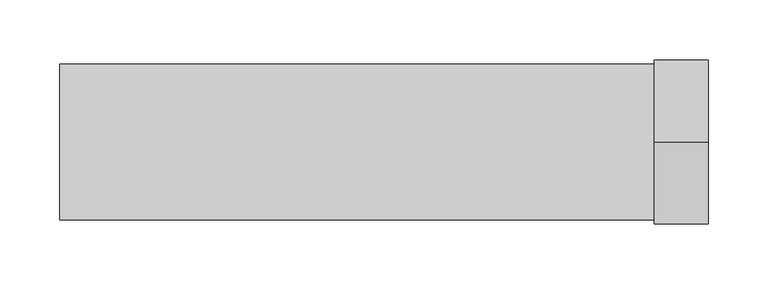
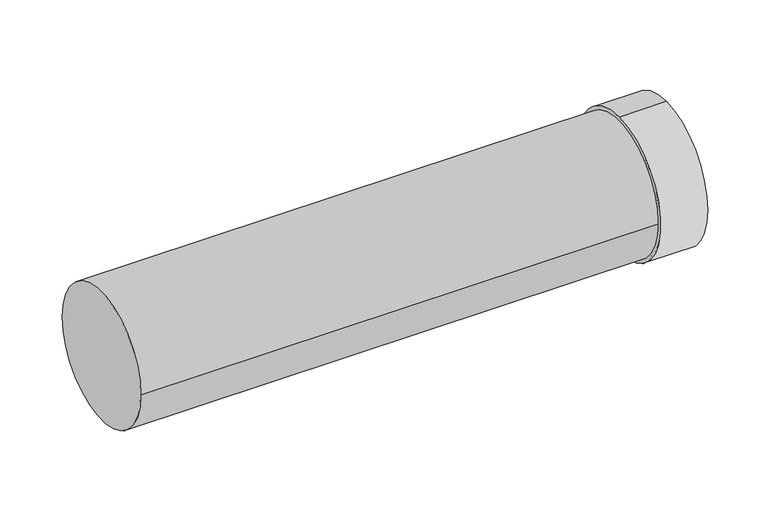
"""IFC4 building model written with IfcOpenShell, lengths in millimetres: duct fitting geometry, NLRS_57_DUF_UN_Twinline Extension_M&G : ø130-150-200."""

from ifc_helpers import new_model, si_unit, point, frame, origin, origin_2d, place, context, project, spatial, polyline, circle_curve, trimmed, segment, composite_curve, outline, extrude, source, transform, mapped, element, save
from ifc_brep_helpers import plane_surface, cylinder_surface, revolved_surface, advanced_brep


def duct_fitting_f8f29cd0(model_context):
    return source(origin(), model_context, "Body", "SolidModel", [
        advanced_brep(
        [(540.0, 0.0, -68.5), (540.0, 0.0, 68.5), (540.0, 0.0, 65.5), (540.0, 0.0, -65.5), (495.0, 0.0, -68.5), (495.0, 0.0, 68.5), (500.0, 0.0, -65.5), (500.0, 0.0, 65.5)],
        [
            (0, 1, circle_curve(frame((540.0, 0.0, 0.0), z_axis=(1.0, 0.0, 0.0), x_axis=(0.0, 0.0, 1.0)), 68.5)),
            (1, 0, circle_curve(frame((540.0, 0.0, 0.0), z_axis=(1.0, 0.0, 0.0), x_axis=(0.0, 0.0, 1.0)), 68.5)),
            (2, 3, circle_curve(frame((540.0, 0.0, 0.0), z_axis=(-1.0, 0.0, 0.0), x_axis=(0.0, 0.0, 1.0)), 65.5)),
            (3, 2, circle_curve(frame((540.0, 0.0, 0.0), z_axis=(-1.0, 0.0, 0.0), x_axis=(0.0, 0.0, 1.0)), 65.5)),
            (4, 5, circle_curve(frame((495.0, 0.0, 0.0), z_axis=(-1.0, 0.0, 0.0), x_axis=(0.0, 0.0, 1.0)), 68.5)),
            (5, 4, circle_curve(frame((495.0, 0.0, 0.0), z_axis=(-1.0, 0.0, 0.0), x_axis=(0.0, 0.0, 1.0)), 68.5)),
            (0, 4),
            (5, 1),
            (6, 7, circle_curve(frame((500.0, 0.0, 0.0), z_axis=(1.0, 0.0, 0.0), x_axis=(0.0, 0.0, 1.0)), 65.5)),
            (7, 6, circle_curve(frame((500.0, 0.0, 0.0), z_axis=(1.0, 0.0, 0.0), x_axis=(0.0, 0.0, 1.0)), 65.5)),
            (6, 3),
            (2, 7),
        ],
        [
            plane_surface(frame((540.0, 0.0, 68.5), z_axis=(1.0, 0.0, 0.0), x_axis=(0.0, -1.0, 0.0))),
            plane_surface(frame((495.0, 0.0, 68.5), z_axis=(-1.0, 0.0, 0.0), x_axis=(0.0, 1.0, 0.0))),
            cylinder_surface(frame((495.0, 0.0, 0.0), z_axis=(1.0, 0.0, 0.0), x_axis=(0.0, 0.0, 1.0)), 68.5),
            plane_surface(frame((500.0, 0.0, 65.5), z_axis=(1.0, 0.0, 0.0), x_axis=(0.0, 1.0, 0.0))),
            revolved_surface(polyline([(540.0, 0.0, 65.5), (500.0, 0.0, 65.5)]), (500.0, 0.0, 0.0), (1.0, 0.0, 0.0)),
        ],
        [
            (0, [[1, 2], [3, 4]]),
            (1, [[5, 6]]),
            (2, [[-1, 7, -6, 8]]),
            (2, [[-2, -8, -5, -7]]),
            (3, [[9, 10]]),
            (4, [[-9, 11, -3, 12]]),
            (4, [[-10, -12, -4, -11]]),
        ],
    ),
        extrude(outline(composite_curve([segment(trimmed(circle_curve(origin_2d(), 65.0), [point((65.0, 0.0))], [point((-65.0, 0.0))], False, "CARTESIAN"), True, "CONTINUOUS"), segment(trimmed(circle_curve(origin_2d(), 65.0), [point((-65.0, 0.0))], [point((65.0, 0.0))], False, "CARTESIAN"), True, "CONTINUOUS")], self_intersect=False)), frame((-2.39e-05, 0.0, 0.0), z_axis=(1.0, 0.0, 0.0), x_axis=(0.0, 1.0, 0.0)), (0.0, 0.0, 1.0), 500.0),
    ])


if __name__ == "__main__":
    model = new_model("IFC4")
    model_context = context("Model", 3, world=origin())
    ifc_project = project(units=[si_unit("LENGTHUNIT", "METRE", prefix="MILLI")], contexts=[model_context])
    site = spatial("IfcSite", under=ifc_project)
    building = spatial("IfcBuilding", under=site)
    placement = place(None, origin())
    duct_fitting_shape = duct_fitting_f8f29cd0(model_context)
    element("IfcDuctFitting", 1, ObjectType="NLRS_57_DUF_UN_Twinline Extension_M&G : ø130-150-200", at=placement, inside=building, context=model_context, shape_type="MappedRepresentation", body=[
        mapped(duct_fitting_shape, transform((0.0, 0.0, 0.0), x_axis=(1.0, 0.0, 0.0), y_axis=(0.0, 1.0, 0.0), z_axis=(0.0, 0.0, 1.0))),
    ])
    save(model, "model.ifc")
